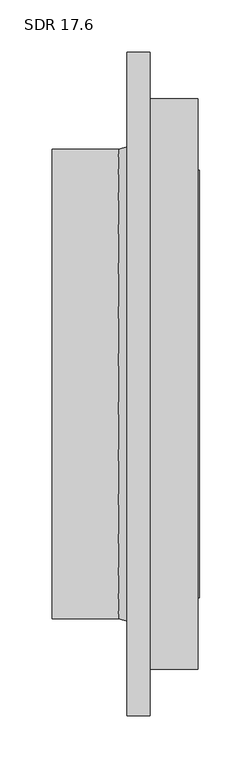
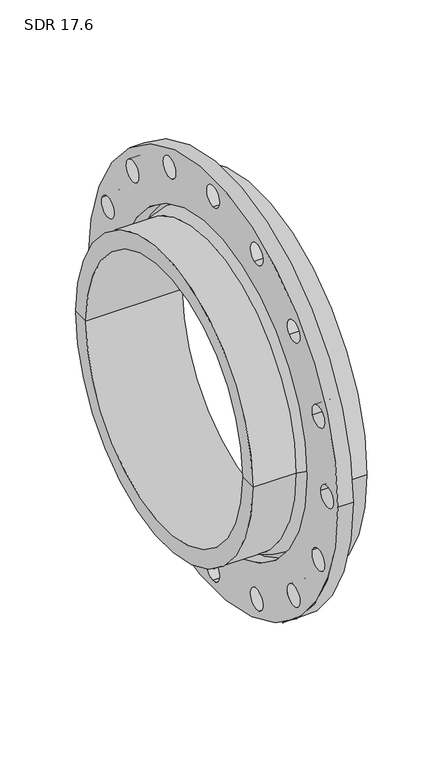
"""IFC4 building model written with IfcOpenShell, lengths in millimetres: valve geometry, Aquatherm - Flange Adapter Butt-Weld : SDR 17.6."""

import ifcopenshell
import ifcopenshell.guid

model = None  # the IFC model being written
_history = None  # IfcOwnerHistory: only IFC2X3 demands one
_inside = {}  # id of a spatial element -> (the spatial element, [elements in it])
_under = {}  # id of a project, library or spatial element -> (it, [spatial elements below it])
_declared = {}  # id of a project -> (the project, [libraries it declares])
_typed = {}  # id of a type object -> (the type object, [elements of that type])
_made_of = {}  # id of a material, layer set ... -> (it, [elements and type objects made of it])


def new_model(schema):
    """Start an empty IFC model of exactly this schema.

    Asked for "IFC4X3", IfcOpenShell would pick the latest addendum, in which some entities
    have other attributes; the version numbers below select the first issue.
    IFC2X3 requires an IfcOwnerHistory on every rooted entity: one is made here for all.
    """
    global model, _history
    if schema == "IFC4X3":
        model = ifcopenshell.file(schema_version=(4, 3, 0, 0))
    else:
        model = ifcopenshell.file(schema=schema)
    _inside.clear()
    _under.clear()
    _declared.clear()
    _typed.clear()
    _made_of.clear()
    _history = None
    if model.schema == "IFC2X3":
        org = make("IfcOrganization", Name="unknown")
        user = make(
            "IfcPersonAndOrganization",
            ThePerson=make("IfcPerson", FamilyName="unknown"),
            TheOrganization=org,
        )
        app = make(
            "IfcApplication",
            ApplicationDeveloper=org,
            Version="unknown",
            ApplicationFullName="unknown",
            ApplicationIdentifier="unknown",
        )
        _history = make(
            "IfcOwnerHistory",
            OwningUser=user,
            OwningApplication=app,
            ChangeAction="ADDED",
            CreationDate=0,
        )
    return model


def make(cls, **values):
    """One entity of the class cls with the attributes given. An attribute that is None is left unset."""
    return model.create_entity(
        cls, **{name: value for name, value in values.items() if value is not None}
    )


def rooted(cls, **values):
    """An entity with a GlobalId (a new one), such as an element, a storey or a relation."""
    return make(cls, GlobalId=ifcopenshell.guid.new(), OwnerHistory=_history, **values)


def si_unit(unit_type, name, prefix=None):
    """IfcSIUnit, for example si_unit("LENGTHUNIT", "METRE", prefix="MILLI")."""
    return make("IfcSIUnit", UnitType=unit_type, Prefix=prefix, Name=name)


def assignment(units):
    """IfcUnitAssignment: the units of a project."""
    return None if units is None else make("IfcUnitAssignment", Units=units)


def point(xyz):
    """IfcCartesianPoint."""
    return None if xyz is None else make("IfcCartesianPoint", Coordinates=xyz)


def direction(xyz):
    """IfcDirection."""
    return None if xyz is None else make("IfcDirection", DirectionRatios=xyz)


def frame(location, z_axis=None, x_axis=None):
    """IfcAxis2Placement3D, a coordinate frame: its origin and axes. An axis left out is left unset."""
    return make(
        "IfcAxis2Placement3D",
        Location=point(location),
        Axis=direction(z_axis),
        RefDirection=direction(x_axis),
    )


def frame_2d(location, x_axis=None):
    """IfcAxis2Placement2D, a coordinate frame in the plane: its origin and x axis."""
    return make(
        "IfcAxis2Placement2D", Location=point(location), RefDirection=direction(x_axis)
    )


def origin():
    """The frame at (0, 0, 0) with its axes left unset."""
    return frame((0.0, 0.0, 0.0))


def origin_2d():
    """The frame at (0, 0) in the plane with its x axis left unset."""
    return frame_2d((0.0, 0.0))


def place(relative_to, where):
    """IfcLocalPlacement: puts the frame where relative to a parent placement (None: the world)."""
    return make(
        "IfcLocalPlacement", PlacementRelTo=relative_to, RelativePlacement=where
    )


def context(
    kind, dimensions, precision=None, world=None, true_north=None, identifier=None
):
    """IfcGeometricRepresentationContext, for example the 3D "Model" context."""
    return make(
        "IfcGeometricRepresentationContext",
        ContextIdentifier=identifier,
        ContextType=kind,
        CoordinateSpaceDimension=dimensions,
        Precision=precision,
        WorldCoordinateSystem=world,
        TrueNorth=true_north,
    )


def project(units=None, contexts=None):
    """IfcProject with its units and contexts."""
    return rooted(
        "IfcProject",
        Name="project",
        RepresentationContexts=contexts,
        UnitsInContext=assignment(units),
    )


def spatial(cls, under=None, at=None, **own):
    """A site, building, storey or space (cls), placed at a placement, below another one or the project."""
    s = rooted(cls, ObjectPlacement=at, **own)
    if under is not None:
        _under.setdefault(under.id(), (under, []))[1].append(s)
    return s


def polyline(points):
    """IfcPolyline through the points."""
    return make("IfcPolyline", Points=[point(p) for p in points])


def circle_curve(where, radius):
    """IfcCircle in the frame where."""
    return make("IfcCircle", Position=where, Radius=radius)


def trimmed(basis, trim1, trim2, sense, master):
    """IfcTrimmedCurve: the piece of a basis curve between two trims."""
    return make(
        "IfcTrimmedCurve",
        BasisCurve=basis,
        Trim1=trim1,
        Trim2=trim2,
        SenseAgreement=sense,
        MasterRepresentation=master,
    )


def segment(curve, same_sense, transition):
    """IfcCompositeCurveSegment."""
    return make(
        "IfcCompositeCurveSegment",
        Transition=transition,
        SameSense=same_sense,
        ParentCurve=curve,
    )


def composite_curve(segments, self_intersect=None):
    """IfcCompositeCurve: segments joined end to end."""
    return make("IfcCompositeCurve", Segments=segments, SelfIntersect=self_intersect)


def outline(outer, holes=None, kind="AREA"):
    """IfcArbitraryClosedProfileDef: a profile drawn as a closed curve; with holes, ...WithVoids."""
    if holes is None:
        return make("IfcArbitraryClosedProfileDef", ProfileType=kind, OuterCurve=outer)
    return make(
        "IfcArbitraryProfileDefWithVoids",
        ProfileType=kind,
        OuterCurve=outer,
        InnerCurves=holes,
    )


def extrude(swept, where, along, depth):
    """IfcExtrudedAreaSolid: the profile swept, set in the frame where, extruded along a direction by depth."""
    return make(
        "IfcExtrudedAreaSolid",
        SweptArea=swept,
        Position=where,
        ExtrudedDirection=direction(along),
        Depth=depth,
    )


def shape(context_of_items, identifier, shape_type, items):
    """IfcShapeRepresentation: the items that make up one representation, for example the "Body"."""
    return make(
        "IfcShapeRepresentation",
        ContextOfItems=context_of_items,
        RepresentationIdentifier=identifier,
        RepresentationType=shape_type,
        Items=items,
    )


def source(mapping_origin, context_of_items, identifier, shape_type, items):
    """IfcRepresentationMap: a shape defined once, which mapped items show again and again."""
    return make(
        "IfcRepresentationMap",
        MappingOrigin=mapping_origin,
        MappedRepresentation=shape(context_of_items, identifier, shape_type, items),
    )


def transform(
    local_origin,
    x_axis=None,
    y_axis=None,
    z_axis=None,
    scale=None,
    scale2=None,
    scale3=None,
    uniform=True,
):
    """IfcCartesianTransformationOperator3D, or its non-uniform kind. x_axis, y_axis, z_axis: its Axis1, 2, 3."""
    if uniform:
        return make(
            "IfcCartesianTransformationOperator3D",
            Axis1=direction(x_axis),
            Axis2=direction(y_axis),
            LocalOrigin=point(local_origin),
            Scale=scale,
            Axis3=direction(z_axis),
        )
    return make(
        "IfcCartesianTransformationOperator3DnonUniform",
        Axis1=direction(x_axis),
        Axis2=direction(y_axis),
        LocalOrigin=point(local_origin),
        Scale=scale,
        Axis3=direction(z_axis),
        Scale2=scale2,
        Scale3=scale3,
    )


def mapped(mapping_source, mapping_target):
    """IfcMappedItem: shows the shape of a source again, moved by a transform."""
    return make(
        "IfcMappedItem", MappingSource=mapping_source, MappingTarget=mapping_target
    )


def made_of(thing, what):
    """Note that an element or type object is made of a material, layer set ...; save() writes the relation."""
    if what is not None:
        _made_of.setdefault(what.id(), (what, []))[1].append(thing)
    return thing


def element(
    cls,
    number,
    at=None,
    inside=None,
    cuts=None,
    type_object=None,
    material=None,
    context=None,
    identifier="Body",
    shape_type=None,
    held_by="IfcProductDefinitionShape",
    body=None,
    shapes=None,
    **own,
):
    """One element of the class cls, such as IfcWall. Its Tag is "e" and its number.

    at: its placement. inside: the storey or other place that contains it. cuts: it is an
    opening in that element (IfcRelVoidsElement). A single representation is given by context,
    identifier, shape_type and body (its items); several are given by shapes. held_by: the class
    of the entity that holds the representations. save() writes the other relations.
    """
    e = rooted(cls, Tag="e%d" % number, ObjectPlacement=at, **own)
    if body is not None:
        shapes = [shape(context, identifier, shape_type, body)]
    if shapes is not None:
        e.Representation = make(held_by, Representations=shapes)
    if inside is not None:
        _inside.setdefault(inside.id(), (inside, []))[1].append(e)
    if cuts is not None:
        rooted(
            "IfcRelVoidsElement", RelatingBuildingElement=cuts, RelatedOpeningElement=e
        )
    if type_object is not None:
        _typed.setdefault(type_object.id(), (type_object, []))[1].append(e)
    return made_of(e, material)


def aggregate(whole, parts):
    """IfcRelAggregates: a whole, such as a stair, and the parts it consists of."""
    return rooted("IfcRelAggregates", RelatingObject=whole, RelatedObjects=parts)


def save(model, path):
    """Write the relations noted so far, then the file.

    IfcRelAggregates (storeys below a building ...), IfcRelContainedInSpatialStructure (elements
    in a storey), IfcRelDefinesByType, IfcRelAssociatesMaterial and IfcRelDeclares: one each for
    every whole, place, type object, material and project.
    """
    for whole, parts in _under.values():
        aggregate(whole, parts)
    for where, things in _inside.values():
        rooted(
            "IfcRelContainedInSpatialStructure",
            RelatedElements=things,
            RelatingStructure=where,
        )
    for kind, things in _typed.values():
        rooted("IfcRelDefinesByType", RelatedObjects=things, RelatingType=kind)
    for what, things in _made_of.values():
        rooted("IfcRelAssociatesMaterial", RelatedObjects=things, RelatingMaterial=what)
    for by, libraries in _declared.values():
        rooted("IfcRelDeclares", RelatingContext=by, RelatedDefinitions=libraries)
    model.write(path)


def plane_surface(at):
    """IfcPlane: the flat surface through the origin of the frame at, square to its z axis."""
    return make("IfcPlane", Position=at)


def cylinder_surface(at, radius):
    """IfcCylindricalSurface: all points at the distance radius from the z axis of the frame at."""
    return make("IfcCylindricalSurface", Position=at, Radius=radius)


def revolved_surface(curve, axis_point, axis_direction):
    """IfcSurfaceOfRevolution: the curve turned about the line through axis_point along axis_direction."""
    return make(
        "IfcSurfaceOfRevolution",
        SweptCurve=make("IfcArbitraryOpenProfileDef", ProfileType="CURVE", Curve=curve),
        AxisPosition=make("IfcAxis1Placement", Location=point(axis_point), Axis=direction(axis_direction)),
    )


def advanced_brep(points, edges, surfaces, faces):
    """IfcAdvancedBrep: a solid bounded by faces that lie on surfaces and meet in shared edges.

    An edge is (start, end): straight between two places in points (the first is 0);
    or (start, end, curve); or (start, end, curve, False) where it runs against its curve.
    A face is (place in surfaces, loops), or (place, loops, False) where it looks against
    its surface's normal. A loop lists edges by number (the first is 1), with a minus sign
    where the edge is run from its end to its start. The first loop is the outer one.
    """
    corners = [point(p) for p in points]
    vertices = [make("IfcVertexPoint", VertexGeometry=c) for c in corners]
    made = []
    for start, end, *more in edges:
        made.append(
            make(
                "IfcEdgeCurve",
                EdgeStart=vertices[start],
                EdgeEnd=vertices[end],
                EdgeGeometry=more[0] if more else make("IfcPolyline", Points=[corners[start], corners[end]]),
                SameSense=more[1] if len(more) > 1 else True,
            )
        )
    hull = []
    for where, loops, *sense in faces:
        bounds = []
        for j, loop in enumerate(loops):
            ring = [make("IfcOrientedEdge", EdgeElement=made[abs(k) - 1], Orientation=k > 0) for k in loop]
            bounds.append(
                make(
                    "IfcFaceOuterBound" if j == 0 else "IfcFaceBound",
                    Bound=make("IfcEdgeLoop", EdgeList=ring),
                    Orientation=True,
                )
            )
        hull.append(make("IfcAdvancedFace", Bounds=bounds, FaceSurface=surfaces[where], SameSense=sense[0] if sense else True))
    return make("IfcAdvancedBrep", Outer=make("IfcClosedShell", CfsFaces=hull))


def sdr_17_6_1c25d308(model_context):
    return source(origin(), model_context, "Body", "SolidModel", [
        extrude(outline(composite_curve([segment(trimmed(circle_curve(origin_2d(), 317.5), [point((-317.5, 0.0))], [point((317.5, 0.0))], False, "CARTESIAN"), True, "CONTINUOUS"), segment(trimmed(circle_curve(origin_2d(), 317.5), [point((317.5, 0.0))], [point((-317.5, 0.0))], False, "CARTESIAN"), True, "CONTINUOUS")], self_intersect=False), holes=[composite_curve([segment(trimmed(circle_curve(origin_2d(), 238.76), [point((-238.76, 0.0))], [point((238.76, 0.0))], True, "CARTESIAN"), True, "CONTINUOUS"), segment(trimmed(circle_curve(origin_2d(), 238.76), [point((238.76, 0.0))], [point((-238.76, 0.0))], True, "CARTESIAN"), True, "CONTINUOUS")], self_intersect=False), composite_curve([segment(trimmed(circle_curve(frame_2d((289.56, 0.0)), 15.875), [point((273.685, 0.0))], [point((305.435, 0.0))], True, "CARTESIAN"), True, "CONTINUOUS"), segment(trimmed(circle_curve(frame_2d((289.56, 0.0)), 15.875), [point((305.435, 0.0))], [point((273.685, 0.0))], True, "CARTESIAN"), True, "CONTINUOUS")], self_intersect=False), composite_curve([segment(trimmed(circle_curve(frame_2d((267.5185574, -110.8098147)), 15.875), [point((252.8519699, -104.7347152))], [point((282.185145, -116.8849142))], True, "CARTESIAN"), True, "CONTINUOUS"), segment(trimmed(circle_curve(frame_2d((267.5185574, -110.8098147)), 15.875), [point((282.185145, -116.8849142))], [point((252.8519699, -104.7347152))], True, "CARTESIAN"), True, "CONTINUOUS")], self_intersect=False), composite_curve([segment(trimmed(circle_curve(frame_2d((267.5185574, 110.8098147)), 15.875), [point((252.8519699, 104.7347152))], [point((282.185145, 116.8849142))], True, "CARTESIAN"), True, "CONTINUOUS"), segment(trimmed(circle_curve(frame_2d((267.5185574, 110.8098147)), 15.875), [point((282.185145, 116.8849142))], [point((252.8519699, 104.7347152))], True, "CARTESIAN"), True, "CONTINUOUS")], self_intersect=False), composite_curve([segment(trimmed(circle_curve(frame_2d((204.7498396, 204.7498396)), 15.875), [point((193.5245194, 193.5245194))], [point((215.9751597, 215.9751597))], True, "CARTESIAN"), True, "CONTINUOUS"), segment(trimmed(circle_curve(frame_2d((204.7498396, 204.7498396)), 15.875), [point((215.9751597, 215.9751597))], [point((193.5245194, 193.5245194))], True, "CARTESIAN"), True, "CONTINUOUS")], self_intersect=False), composite_curve([segment(trimmed(circle_curve(frame_2d((110.8098147, 267.5185574)), 15.875), [point((104.7347152, 252.8519699))], [point((116.8849142, 282.185145))], True, "CARTESIAN"), True, "CONTINUOUS"), segment(trimmed(circle_curve(frame_2d((110.8098147, 267.5185574)), 15.875), [point((116.8849142, 282.185145))], [point((104.7347152, 252.8519699))], True, "CARTESIAN"), True, "CONTINUOUS")], self_intersect=False), composite_curve([segment(trimmed(circle_curve(frame_2d((0.0, 289.56)), 15.875), [point((0.0, 273.685))], [point((0.0, 305.435))], True, "CARTESIAN"), True, "CONTINUOUS"), segment(trimmed(circle_curve(frame_2d((0.0, 289.56)), 15.875), [point((0.0, 305.435))], [point((0.0, 273.685))], True, "CARTESIAN"), True, "CONTINUOUS")], self_intersect=False), composite_curve([segment(trimmed(circle_curve(frame_2d((-110.8098147, 267.5185574)), 15.875), [point((-104.7347152, 252.8519699))], [point((-116.8849142, 282.185145))], True, "CARTESIAN"), True, "CONTINUOUS"), segment(trimmed(circle_curve(frame_2d((-110.8098147, 267.5185574)), 15.875), [point((-116.8849142, 282.185145))], [point((-104.7347152, 252.8519699))], True, "CARTESIAN"), True, "CONTINUOUS")], self_intersect=False), composite_curve([segment(trimmed(circle_curve(frame_2d((-204.7498396, 204.7498396)), 15.875), [point((-193.5245194, 193.5245194))], [point((-215.9751597, 215.9751597))], True, "CARTESIAN"), True, "CONTINUOUS"), segment(trimmed(circle_curve(frame_2d((-204.7498396, 204.7498396)), 15.875), [point((-215.9751597, 215.9751597))], [point((-193.5245194, 193.5245194))], True, "CARTESIAN"), True, "CONTINUOUS")], self_intersect=False), composite_curve([segment(trimmed(circle_curve(frame_2d((-267.5185574, 110.8098147)), 15.875), [point((-252.8519699, 104.7347152))], [point((-282.185145, 116.8849142))], True, "CARTESIAN"), True, "CONTINUOUS"), segment(trimmed(circle_curve(frame_2d((-267.5185574, 110.8098147)), 15.875), [point((-282.185145, 116.8849142))], [point((-252.8519699, 104.7347152))], True, "CARTESIAN"), True, "CONTINUOUS")], self_intersect=False), composite_curve([segment(trimmed(circle_curve(frame_2d((-289.56, 0.0)), 15.875), [point((-273.685, 0.0))], [point((-305.435, 0.0))], True, "CARTESIAN"), True, "CONTINUOUS"), segment(trimmed(circle_curve(frame_2d((-289.56, 0.0)), 15.875), [point((-305.435, 0.0))], [point((-273.685, 0.0))], True, "CARTESIAN"), True, "CONTINUOUS")], self_intersect=False), composite_curve([segment(trimmed(circle_curve(frame_2d((-267.5185574, -110.8098147)), 15.875), [point((-252.8519699, -104.7347152))], [point((-282.185145, -116.8849142))], True, "CARTESIAN"), True, "CONTINUOUS"), segment(trimmed(circle_curve(frame_2d((-267.5185574, -110.8098147)), 15.875), [point((-282.185145, -116.8849142))], [point((-252.8519699, -104.7347152))], True, "CARTESIAN"), True, "CONTINUOUS")], self_intersect=False), composite_curve([segment(trimmed(circle_curve(frame_2d((-204.7498396, -204.7498396)), 15.875), [point((-193.5245194, -193.5245194))], [point((-215.9751597, -215.9751597))], True, "CARTESIAN"), True, "CONTINUOUS"), segment(trimmed(circle_curve(frame_2d((-204.7498396, -204.7498396)), 15.875), [point((-215.9751597, -215.9751597))], [point((-193.5245194, -193.5245194))], True, "CARTESIAN"), True, "CONTINUOUS")], self_intersect=False), composite_curve([segment(trimmed(circle_curve(frame_2d((-110.8098147, -267.5185574)), 15.875), [point((-104.7347152, -252.8519699))], [point((-116.8849142, -282.185145))], True, "CARTESIAN"), True, "CONTINUOUS"), segment(trimmed(circle_curve(frame_2d((-110.8098147, -267.5185574)), 15.875), [point((-116.8849142, -282.185145))], [point((-104.7347152, -252.8519699))], True, "CARTESIAN"), True, "CONTINUOUS")], self_intersect=False), composite_curve([segment(trimmed(circle_curve(frame_2d((0.0, -289.56)), 15.875), [point((0.0, -273.685))], [point((0.0, -305.435))], True, "CARTESIAN"), True, "CONTINUOUS"), segment(trimmed(circle_curve(frame_2d((0.0, -289.56)), 15.875), [point((0.0, -305.435))], [point((0.0, -273.685))], True, "CARTESIAN"), True, "CONTINUOUS")], self_intersect=False), composite_curve([segment(trimmed(circle_curve(frame_2d((110.8098147, -267.5185574)), 15.875), [point((104.7347152, -252.8519699))], [point((116.8849142, -282.185145))], True, "CARTESIAN"), True, "CONTINUOUS"), segment(trimmed(circle_curve(frame_2d((110.8098147, -267.5185574)), 15.875), [point((116.8849142, -282.185145))], [point((104.7347152, -252.8519699))], True, "CARTESIAN"), True, "CONTINUOUS")], self_intersect=False), composite_curve([segment(trimmed(circle_curve(frame_2d((204.7498396, -204.7498396)), 15.875), [point((193.5245194, -193.5245194))], [point((215.9751597, -215.9751597))], True, "CARTESIAN"), True, "CONTINUOUS"), segment(trimmed(circle_curve(frame_2d((204.7498396, -204.7498396)), 15.875), [point((215.9751597, -215.9751597))], [point((193.5245194, -193.5245194))], True, "CARTESIAN"), True, "CONTINUOUS")], self_intersect=False)]), frame((-22.352, 0.0, 0.0), z_axis=(1.0, 0.0, 0.0), x_axis=(0.0, 1.0, 0.0)), (0.0, 0.0, 1.0), 22.352),
        advanced_brep(
        [(45.72, 273.05, 0.0), (45.72, -273.05, 0.0), (0.0, -273.05, 0.0), (0.0, 273.05, 0.0), (47.3075, 199.39, 0.0), (47.3075, -199.39, 0.0), (47.3075, -204.47, 0.0), (47.3075, 204.47, 0.0), (-93.98, 199.39, 0.0), (-93.98, -199.39, 0.0), (-93.98, 224.79, 0.0), (-93.98, -224.79, 0.0), (-30.48, 224.79, 0.0), (-30.48, -224.79, 0.0), (0.0, -233.045, 0.0), (0.0, 233.045, 0.0), (45.72, 204.47, 0.0), (45.72, -204.47, 0.0)],
        [
            (0, 1, circle_curve(frame((45.72, 0.0, 0.0), z_axis=(-1.0, 0.0, 0.0), x_axis=(0.0, -1.0, 0.0)), 273.05)),
            (1, 2),
            (2, 3, circle_curve(frame((0.0, 0.0, 0.0), z_axis=(1.0, 0.0, 0.0), x_axis=(0.0, -1.0, 0.0)), 273.05)),
            (3, 0),
            (1, 0, circle_curve(frame((45.72, 0.0, 0.0), z_axis=(-1.0, 0.0, 0.0), x_axis=(0.0, -1.0, 0.0)), 273.05)),
            (3, 2, circle_curve(frame((0.0, 0.0, 0.0), z_axis=(1.0, 0.0, 0.0), x_axis=(0.0, -1.0, 0.0)), 273.05)),
            (4, 5, circle_curve(frame((47.3075, 0.0, 0.0), z_axis=(-1.0, 0.0, 0.0), x_axis=(0.0, -1.0, 0.0)), 199.39)),
            (5, 6),
            (6, 7, circle_curve(frame((47.3075, 0.0, 0.0), z_axis=(1.0, 0.0, 0.0), x_axis=(0.0, -1.0, 0.0)), 204.47)),
            (7, 4),
            (5, 4, circle_curve(frame((47.3075, 0.0, 0.0), z_axis=(-1.0, 0.0, 0.0), x_axis=(0.0, -1.0, 0.0)), 199.39)),
            (7, 6, circle_curve(frame((47.3075, 0.0, 0.0), z_axis=(1.0, 0.0, 0.0), x_axis=(0.0, -1.0, 0.0)), 204.47)),
            (8, 9, circle_curve(frame((-93.98, 0.0, 0.0), z_axis=(-1.0, 0.0, 0.0), x_axis=(0.0, -1.0, 0.0)), 199.39)),
            (9, 5),
            (4, 8),
            (9, 8, circle_curve(frame((-93.98, 0.0, 0.0), z_axis=(-1.0, 0.0, 0.0), x_axis=(0.0, -1.0, 0.0)), 199.39)),
            (10, 11, circle_curve(frame((-93.98, 0.0, 0.0), z_axis=(-1.0, 0.0, 0.0), x_axis=(0.0, -1.0, 0.0)), 224.79)),
            (11, 9),
            (8, 10),
            (11, 10, circle_curve(frame((-93.98, 0.0, 0.0), z_axis=(-1.0, 0.0, 0.0), x_axis=(0.0, -1.0, 0.0)), 224.79)),
            (12, 13, circle_curve(frame((-30.48, 0.0, 0.0), z_axis=(-1.0, 0.0, 0.0), x_axis=(0.0, -1.0, 0.0)), 224.79)),
            (13, 11),
            (10, 12),
            (13, 12, circle_curve(frame((-30.48, 0.0, 0.0), z_axis=(-1.0, 0.0, 0.0), x_axis=(0.0, -1.0, 0.0)), 224.79)),
            (2, 14),
            (14, 15, circle_curve(frame((0.0, 0.0, 0.0), z_axis=(1.0, 0.0, 0.0), x_axis=(0.0, -1.0, 0.0)), 233.045)),
            (15, 3),
            (15, 14, circle_curve(frame((0.0, 0.0, 0.0), z_axis=(1.0, 0.0, 0.0), x_axis=(0.0, -1.0, 0.0)), 233.045)),
            (16, 17, circle_curve(frame((45.72, 0.0, 0.0), z_axis=(-1.0, 0.0, 0.0), x_axis=(0.0, -1.0, 0.0)), 204.47)),
            (17, 1),
            (0, 16),
            (17, 16, circle_curve(frame((45.72, 0.0, 0.0), z_axis=(-1.0, 0.0, 0.0), x_axis=(0.0, -1.0, 0.0)), 204.47)),
            (6, 17),
            (16, 7),
            (14, 13),
            (12, 15),
        ],
        [
            cylinder_surface(frame((1486.3589321, 0.0, 0.0), z_axis=(1.0, 0.0, 0.0), x_axis=(0.0, -1.0, 0.0)), 273.05),
            plane_surface(frame((47.3075, 0.0, 0.0), z_axis=(1.0, 0.0, 0.0), x_axis=(0.0, -1.0, 0.0))),
            revolved_surface(polyline([(47.30749999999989, -199.39, 0.0), (-93.98000000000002, -199.39, 0.0)]), (1486.3589321, 0.0, 0.0), (1.0, 0.0, 0.0)),
            plane_surface(frame((-93.98, 0.0, 0.0), z_axis=(-1.0, 0.0, 0.0), x_axis=(0.0, -1.0, 0.0))),
            cylinder_surface(frame((1486.3589321, 0.0, 0.0), z_axis=(1.0, 0.0, 0.0), x_axis=(0.0, -1.0, 0.0)), 224.79),
            plane_surface(frame((0.0, 0.0, 0.0), z_axis=(-1.0, 0.0, 0.0), x_axis=(0.0, -1.0, 0.0))),
            plane_surface(frame((45.72, 0.0, 0.0), z_axis=(1.0, 0.0, 0.0), x_axis=(0.0, -1.0, 0.0))),
            cylinder_surface(frame((1486.3589321, 0.0, 0.0), z_axis=(1.0, 0.0, 0.0), x_axis=(0.0, -1.0, 0.0)), 204.47),
            revolved_surface(polyline([(-30.48, -224.79, 0.0), (0.0, -233.045, 0.0)]), (1486.3589321, 0.0, 0.0), (1.0, 0.0, 0.0)),
        ],
        [
            (0, [[1, 2, 3, 4]]),
            (0, [[5, -4, 6, -2]]),
            (1, [[7, 8, 9, 10]]),
            (1, [[11, -10, 12, -8]]),
            (2, [[13, 14, -7, 15]]),
            (2, [[16, -15, -11, -14]]),
            (3, [[17, 18, -13, 19]]),
            (3, [[20, -19, -16, -18]]),
            (4, [[21, 22, -17, 23]]),
            (4, [[24, -23, -20, -22]]),
            (5, [[-3, 25, 26, 27]]),
            (5, [[-6, -27, 28, -25]]),
            (6, [[29, 30, -1, 31]]),
            (6, [[32, -31, -5, -30]]),
            (7, [[-9, 33, -29, 34]]),
            (7, [[-12, -34, -32, -33]]),
            (8, [[-26, 35, -21, 36]]),
            (8, [[-28, -36, -24, -35]]),
        ],
    ),
    ])


if __name__ == "__main__":
    model = new_model("IFC4")
    model_context = context("Model", 3, world=origin())
    ifc_project = project(units=[si_unit("LENGTHUNIT", "METRE", prefix="MILLI")], contexts=[model_context])
    site = spatial("IfcSite", under=ifc_project)
    building = spatial("IfcBuilding", under=site)
    placement = place(None, origin())
    sdr_17_6_shape = sdr_17_6_1c25d308(model_context)
    element("IfcValve", 1, ObjectType="Aquatherm - Flange Adapter Butt-Weld : SDR 17.6", at=placement, inside=building, context=model_context, shape_type="MappedRepresentation", body=[
        mapped(sdr_17_6_shape, transform((0.0, 0.0, 0.0), x_axis=(1.0, 0.0, 0.0), y_axis=(0.0, 1.0, 0.0), z_axis=(0.0, 0.0, 1.0))),
    ])
    save(model, "model.ifc")
